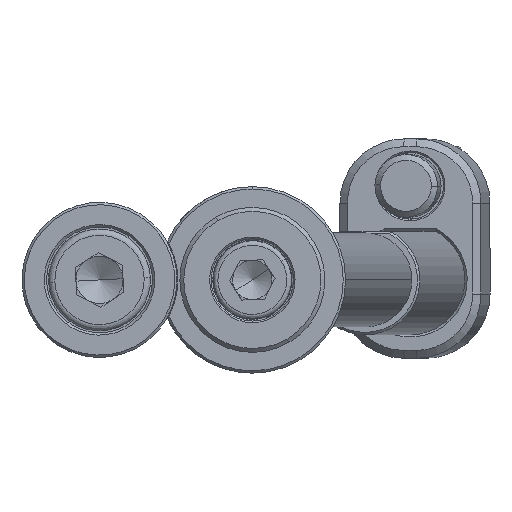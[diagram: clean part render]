
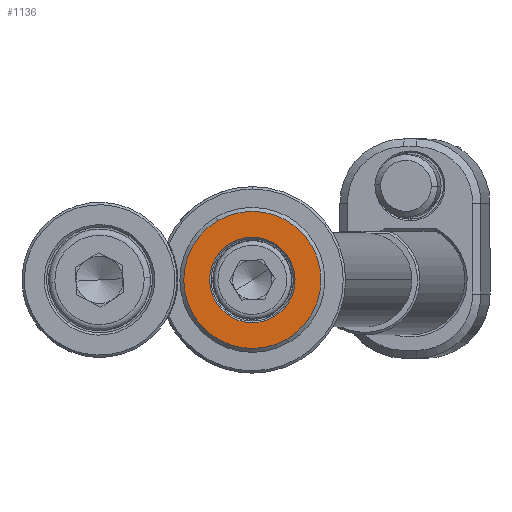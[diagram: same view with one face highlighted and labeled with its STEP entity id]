
A CAD part, front view. The second image highlights one B-rep face of the part: STEP entity #1136.
In plain terms, the highlighted planar face has unit normal (0, -1, 0).
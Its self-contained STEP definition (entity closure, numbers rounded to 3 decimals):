
#415 = CIRCLE ( 'NONE', #8482, 8.75 ) ;
#994 = AXIS2_PLACEMENT_3D ( 'NONE', #7661, #11027, #13508 ) ;
#1027 = EDGE_CURVE ( 'NONE', #10572, #12988, #415, .T. ) ;
#1136 = ADVANCED_FACE ( 'NONE', ( #12549, #2574 ), #6949, .F. ) ;
#1318 = AXIS2_PLACEMENT_3D ( 'NONE', #6239, #13846, #8285 ) ;
#1379 = DIRECTION ( 'NONE',  ( 0., -1., 0. ) ) ;
#1474 = EDGE_CURVE ( 'NONE', #5659, #5658, #13424, .T. ) ;
#1946 = CARTESIAN_POINT ( 'NONE',  ( 4.42, -4., -7.552 ) ) ;
#2574 = FACE_OUTER_BOUND ( 'NONE', #10643, .T. ) ;
#3007 = CARTESIAN_POINT ( 'NONE',  ( -4.531, -4., -2.652 ) ) ;
#3576 = CARTESIAN_POINT ( 'NONE',  ( 0., -4., 0. ) ) ;
#3885 = ORIENTED_EDGE ( 'NONE', *, *, #12688, .T. ) ;
#3963 = CARTESIAN_POINT ( 'NONE',  ( 2.753, -4., -4.704 ) ) ;
#4125 = AXIS2_PLACEMENT_3D ( 'NONE', #3576, #9313, #11573 ) ;
#4258 = EDGE_LOOP ( 'NONE', ( #5082, #8615 ) ) ;
#5082 = ORIENTED_EDGE ( 'NONE', *, *, #6951, .T. ) ;
#5138 = DIRECTION ( 'NONE',  ( -0.505, 0., 0.863 ) ) ;
#5430 = ORIENTED_EDGE ( 'NONE', *, *, #1027, .T. ) ;
#5658 = VERTEX_POINT ( 'NONE', #3963 ) ;
#5659 = VERTEX_POINT ( 'NONE', #7233 ) ;
#5893 = CIRCLE ( 'NONE', #1318, 8.75 ) ;
#6239 = CARTESIAN_POINT ( 'NONE',  ( 0., -4., 0. ) ) ;
#6822 = CARTESIAN_POINT ( 'NONE',  ( 0., -4., 0. ) ) ;
#6949 = PLANE ( 'NONE',  #7084 ) ;
#6951 = EDGE_CURVE ( 'NONE', #5658, #5659, #11840, .T. ) ;
#7084 = AXIS2_PLACEMENT_3D ( 'NONE', #3007, #8554, #5138 ) ;
#7233 = CARTESIAN_POINT ( 'NONE',  ( -2.753, -4., 4.704 ) ) ;
#7661 = CARTESIAN_POINT ( 'NONE',  ( 0., -4., 0. ) ) ;
#8285 = DIRECTION ( 'NONE',  ( -0.505, 0., 0.863 ) ) ;
#8482 = AXIS2_PLACEMENT_3D ( 'NONE', #6822, #1379, #11415 ) ;
#8554 = DIRECTION ( 'NONE',  ( 0., 1., 0. ) ) ;
#8615 = ORIENTED_EDGE ( 'NONE', *, *, #1474, .T. ) ;
#9313 = DIRECTION ( 'NONE',  ( 0., 1., 0. ) ) ;
#10572 = VERTEX_POINT ( 'NONE', #1946 ) ;
#10643 = EDGE_LOOP ( 'NONE', ( #3885, #5430 ) ) ;
#11027 = DIRECTION ( 'NONE',  ( 0., 1., 0. ) ) ;
#11415 = DIRECTION ( 'NONE',  ( -0.505, 0., 0.863 ) ) ;
#11573 = DIRECTION ( 'NONE',  ( -0.505, 0., 0.863 ) ) ;
#11840 = CIRCLE ( 'NONE', #994, 5.45 ) ;
#12549 = FACE_BOUND ( 'NONE', #4258, .T. ) ;
#12688 = EDGE_CURVE ( 'NONE', #12988, #10572, #5893, .T. ) ;
#12778 = CARTESIAN_POINT ( 'NONE',  ( -4.42, -4., 7.552 ) ) ;
#12988 = VERTEX_POINT ( 'NONE', #12778 ) ;
#13424 = CIRCLE ( 'NONE', #4125, 5.45 ) ;
#13508 = DIRECTION ( 'NONE',  ( -0.505, 0., 0.863 ) ) ;
#13846 = DIRECTION ( 'NONE',  ( 0., -1., 0. ) ) ;
